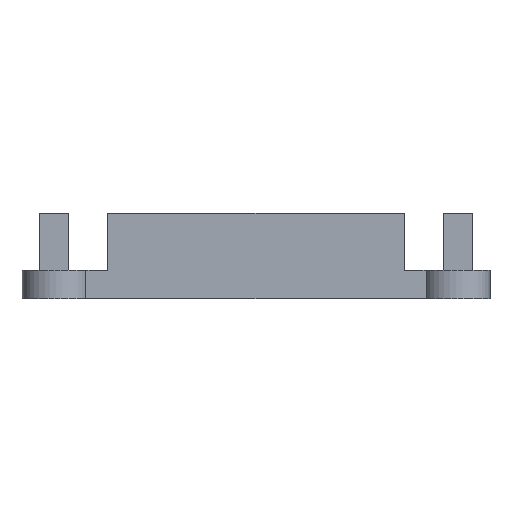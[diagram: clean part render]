
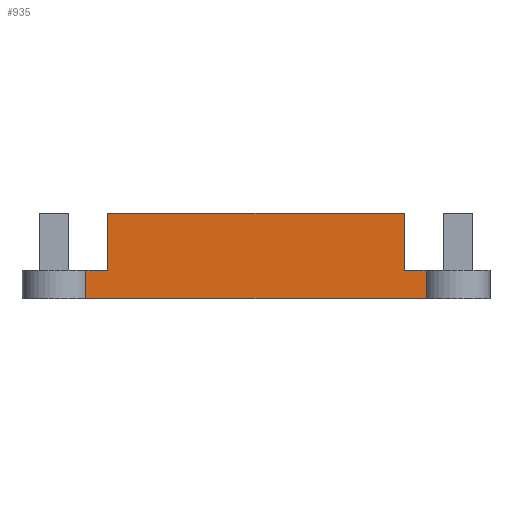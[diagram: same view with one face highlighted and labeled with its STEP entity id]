
A CAD part, left-side view. The second image highlights one B-rep face of the part: STEP entity #935.
In plain terms, the highlighted planar face has unit normal (-1, 0, 0).
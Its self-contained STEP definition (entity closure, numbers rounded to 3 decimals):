
#21 = EDGE_CURVE('',#22,#24,#26,.T.);
#22 = VERTEX_POINT('',#23);
#23 = CARTESIAN_POINT('',(3.,7.098,2.5));
#24 = VERTEX_POINT('',#25);
#25 = CARTESIAN_POINT('',(3.,9.,2.5));
#26 = SURFACE_CURVE('',#27,(#31,#43),.PCURVE_S1.);
#27 = LINE('',#28,#29);
#28 = CARTESIAN_POINT('',(3.,3.,2.5));
#29 = VECTOR('',#30,1.);
#30 = DIRECTION('',(0.,1.,0.));
#31 = PCURVE('',#32,#37);
#32 = PLANE('',#33);
#33 = AXIS2_PLACEMENT_3D('',#34,#35,#36);
#34 = CARTESIAN_POINT('',(3.,3.,2.5));
#35 = DIRECTION('',(0.,0.,1.));
#36 = DIRECTION('',(1.,0.,0.));
#37 = DEFINITIONAL_REPRESENTATION('',(#38),#42);
#38 = LINE('',#39,#40);
#39 = CARTESIAN_POINT('',(0.,0.));
#40 = VECTOR('',#41,1.);
#41 = DIRECTION('',(0.,1.));
#42 = ( GEOMETRIC_REPRESENTATION_CONTEXT(2) 
PARAMETRIC_REPRESENTATION_CONTEXT() REPRESENTATION_CONTEXT('2D SPACE',''
  ) );
#43 = PCURVE('',#44,#49);
#44 = PLANE('',#45);
#45 = AXIS2_PLACEMENT_3D('',#46,#47,#48);
#46 = CARTESIAN_POINT('',(3.,3.,0.));
#47 = DIRECTION('',(1.,0.,0.));
#48 = DIRECTION('',(0.,0.,1.));
#49 = DEFINITIONAL_REPRESENTATION('',(#50),#54);
#50 = LINE('',#51,#52);
#51 = CARTESIAN_POINT('',(2.5,0.));
#52 = VECTOR('',#53,1.);
#53 = DIRECTION('',(0.,-1.));
#54 = ( GEOMETRIC_REPRESENTATION_CONTEXT(2) 
PARAMETRIC_REPRESENTATION_CONTEXT() REPRESENTATION_CONTEXT('2D SPACE',''
  ) );
#73 = CYLINDRICAL_SURFACE('',#74,3.);
#74 = AXIS2_PLACEMENT_3D('',#75,#76,#77);
#75 = CARTESIAN_POINT('',(4.5,4.5,0.));
#76 = DIRECTION('',(-0.,-0.,-1.));
#77 = DIRECTION('',(1.,0.,0.));
#549 = VERTEX_POINT('',#550);
#550 = CARTESIAN_POINT('',(3.,36.902,2.5));
#565 = CYLINDRICAL_SURFACE('',#566,3.);
#566 = AXIS2_PLACEMENT_3D('',#567,#568,#569);
#567 = CARTESIAN_POINT('',(4.5,39.5,0.));
#568 = DIRECTION('',(-0.,-0.,-1.));
#569 = DIRECTION('',(1.,0.,0.));
#577 = EDGE_CURVE('',#578,#549,#580,.T.);
#578 = VERTEX_POINT('',#579);
#579 = CARTESIAN_POINT('',(3.,35.,2.5));
#580 = SURFACE_CURVE('',#581,(#585,#592),.PCURVE_S1.);
#581 = LINE('',#582,#583);
#582 = CARTESIAN_POINT('',(3.,3.,2.5));
#583 = VECTOR('',#584,1.);
#584 = DIRECTION('',(0.,1.,0.));
#585 = PCURVE('',#32,#586);
#586 = DEFINITIONAL_REPRESENTATION('',(#587),#591);
#587 = LINE('',#588,#589);
#588 = CARTESIAN_POINT('',(0.,0.));
#589 = VECTOR('',#590,1.);
#590 = DIRECTION('',(0.,1.));
#591 = ( GEOMETRIC_REPRESENTATION_CONTEXT(2) 
PARAMETRIC_REPRESENTATION_CONTEXT() REPRESENTATION_CONTEXT('2D SPACE',''
  ) );
#592 = PCURVE('',#44,#593);
#593 = DEFINITIONAL_REPRESENTATION('',(#594),#598);
#594 = LINE('',#595,#596);
#595 = CARTESIAN_POINT('',(2.5,0.));
#596 = VECTOR('',#597,1.);
#597 = DIRECTION('',(0.,-1.));
#598 = ( GEOMETRIC_REPRESENTATION_CONTEXT(2) 
PARAMETRIC_REPRESENTATION_CONTEXT() REPRESENTATION_CONTEXT('2D SPACE',''
  ) );
#616 = PLANE('',#617);
#617 = AXIS2_PLACEMENT_3D('',#618,#619,#620);
#618 = CARTESIAN_POINT('',(3.,35.,2.5));
#619 = DIRECTION('',(0.,1.,0.));
#620 = DIRECTION('',(0.,0.,1.));
#670 = PLANE('',#671);
#671 = AXIS2_PLACEMENT_3D('',#672,#673,#674);
#672 = CARTESIAN_POINT('',(3.,9.,2.5));
#673 = DIRECTION('',(0.,1.,0.));
#674 = DIRECTION('',(0.,0.,1.));
#935 = ADVANCED_FACE('',(#936),#44,.F.);
#936 = FACE_BOUND('',#937,.F.);
#937 = EDGE_LOOP('',(#938,#939,#962,#990,#1011,#1012,#1035,#1063));
#938 = ORIENTED_EDGE('',*,*,#21,.F.);
#939 = ORIENTED_EDGE('',*,*,#940,.T.);
#940 = EDGE_CURVE('',#22,#941,#943,.T.);
#941 = VERTEX_POINT('',#942);
#942 = CARTESIAN_POINT('',(3.,7.098,0.));
#943 = SURFACE_CURVE('',#944,(#948,#955),.PCURVE_S1.);
#944 = LINE('',#945,#946);
#945 = CARTESIAN_POINT('',(3.,7.098,0.));
#946 = VECTOR('',#947,1.);
#947 = DIRECTION('',(-0.,-0.,-1.));
#948 = PCURVE('',#44,#949);
#949 = DEFINITIONAL_REPRESENTATION('',(#950),#954);
#950 = LINE('',#951,#952);
#951 = CARTESIAN_POINT('',(0.,-4.098));
#952 = VECTOR('',#953,1.);
#953 = DIRECTION('',(-1.,0.));
#954 = ( GEOMETRIC_REPRESENTATION_CONTEXT(2) 
PARAMETRIC_REPRESENTATION_CONTEXT() REPRESENTATION_CONTEXT('2D SPACE',''
  ) );
#955 = PCURVE('',#73,#956);
#956 = DEFINITIONAL_REPRESENTATION('',(#957),#961);
#957 = LINE('',#958,#959);
#958 = CARTESIAN_POINT('',(-2.094,0.));
#959 = VECTOR('',#960,1.);
#960 = DIRECTION('',(-0.,1.));
#961 = ( GEOMETRIC_REPRESENTATION_CONTEXT(2) 
PARAMETRIC_REPRESENTATION_CONTEXT() REPRESENTATION_CONTEXT('2D SPACE',''
  ) );
#962 = ORIENTED_EDGE('',*,*,#963,.T.);
#963 = EDGE_CURVE('',#941,#964,#966,.T.);
#964 = VERTEX_POINT('',#965);
#965 = CARTESIAN_POINT('',(3.,36.902,0.));
#966 = SURFACE_CURVE('',#967,(#971,#978),.PCURVE_S1.);
#967 = LINE('',#968,#969);
#968 = CARTESIAN_POINT('',(3.,3.,0.));
#969 = VECTOR('',#970,1.);
#970 = DIRECTION('',(0.,1.,0.));
#971 = PCURVE('',#44,#972);
#972 = DEFINITIONAL_REPRESENTATION('',(#973),#977);
#973 = LINE('',#974,#975);
#974 = CARTESIAN_POINT('',(0.,0.));
#975 = VECTOR('',#976,1.);
#976 = DIRECTION('',(0.,-1.));
#977 = ( GEOMETRIC_REPRESENTATION_CONTEXT(2) 
PARAMETRIC_REPRESENTATION_CONTEXT() REPRESENTATION_CONTEXT('2D SPACE',''
  ) );
#978 = PCURVE('',#979,#984);
#979 = PLANE('',#980);
#980 = AXIS2_PLACEMENT_3D('',#981,#982,#983);
#981 = CARTESIAN_POINT('',(4.5,4.5,0.));
#982 = DIRECTION('',(0.,0.,1.));
#983 = DIRECTION('',(1.,0.,-0.));
#984 = DEFINITIONAL_REPRESENTATION('',(#985),#989);
#985 = LINE('',#986,#987);
#986 = CARTESIAN_POINT('',(-1.5,-1.5));
#987 = VECTOR('',#988,1.);
#988 = DIRECTION('',(0.,1.));
#989 = ( GEOMETRIC_REPRESENTATION_CONTEXT(2) 
PARAMETRIC_REPRESENTATION_CONTEXT() REPRESENTATION_CONTEXT('2D SPACE',''
  ) );
#990 = ORIENTED_EDGE('',*,*,#991,.F.);
#991 = EDGE_CURVE('',#549,#964,#992,.T.);
#992 = SURFACE_CURVE('',#993,(#997,#1004),.PCURVE_S1.);
#993 = LINE('',#994,#995);
#994 = CARTESIAN_POINT('',(3.,36.902,0.));
#995 = VECTOR('',#996,1.);
#996 = DIRECTION('',(-0.,-0.,-1.));
#997 = PCURVE('',#44,#998);
#998 = DEFINITIONAL_REPRESENTATION('',(#999),#1003);
#999 = LINE('',#1000,#1001);
#1000 = CARTESIAN_POINT('',(0.,-33.902));
#1001 = VECTOR('',#1002,1.);
#1002 = DIRECTION('',(-1.,0.));
#1003 = ( GEOMETRIC_REPRESENTATION_CONTEXT(2) 
PARAMETRIC_REPRESENTATION_CONTEXT() REPRESENTATION_CONTEXT('2D SPACE',''
  ) );
#1004 = PCURVE('',#565,#1005);
#1005 = DEFINITIONAL_REPRESENTATION('',(#1006),#1010);
#1006 = LINE('',#1007,#1008);
#1007 = CARTESIAN_POINT('',(-4.189,0.));
#1008 = VECTOR('',#1009,1.);
#1009 = DIRECTION('',(-0.,1.));
#1010 = ( GEOMETRIC_REPRESENTATION_CONTEXT(2) 
PARAMETRIC_REPRESENTATION_CONTEXT() REPRESENTATION_CONTEXT('2D SPACE',''
  ) );
#1011 = ORIENTED_EDGE('',*,*,#577,.F.);
#1012 = ORIENTED_EDGE('',*,*,#1013,.T.);
#1013 = EDGE_CURVE('',#578,#1014,#1016,.T.);
#1014 = VERTEX_POINT('',#1015);
#1015 = CARTESIAN_POINT('',(3.,35.,7.5));
#1016 = SURFACE_CURVE('',#1017,(#1021,#1028),.PCURVE_S1.);
#1017 = LINE('',#1018,#1019);
#1018 = CARTESIAN_POINT('',(3.,35.,2.5));
#1019 = VECTOR('',#1020,1.);
#1020 = DIRECTION('',(0.,0.,1.));
#1021 = PCURVE('',#44,#1022);
#1022 = DEFINITIONAL_REPRESENTATION('',(#1023),#1027);
#1023 = LINE('',#1024,#1025);
#1024 = CARTESIAN_POINT('',(2.5,-32.));
#1025 = VECTOR('',#1026,1.);
#1026 = DIRECTION('',(1.,0.));
#1027 = ( GEOMETRIC_REPRESENTATION_CONTEXT(2) 
PARAMETRIC_REPRESENTATION_CONTEXT() REPRESENTATION_CONTEXT('2D SPACE',''
  ) );
#1028 = PCURVE('',#616,#1029);
#1029 = DEFINITIONAL_REPRESENTATION('',(#1030),#1034);
#1030 = LINE('',#1031,#1032);
#1031 = CARTESIAN_POINT('',(0.,0.));
#1032 = VECTOR('',#1033,1.);
#1033 = DIRECTION('',(1.,0.));
#1034 = ( GEOMETRIC_REPRESENTATION_CONTEXT(2) 
PARAMETRIC_REPRESENTATION_CONTEXT() REPRESENTATION_CONTEXT('2D SPACE',''
  ) );
#1035 = ORIENTED_EDGE('',*,*,#1036,.F.);
#1036 = EDGE_CURVE('',#1037,#1014,#1039,.T.);
#1037 = VERTEX_POINT('',#1038);
#1038 = CARTESIAN_POINT('',(3.,9.,7.5));
#1039 = SURFACE_CURVE('',#1040,(#1044,#1051),.PCURVE_S1.);
#1040 = LINE('',#1041,#1042);
#1041 = CARTESIAN_POINT('',(3.,9.,7.5));
#1042 = VECTOR('',#1043,1.);
#1043 = DIRECTION('',(0.,1.,0.));
#1044 = PCURVE('',#44,#1045);
#1045 = DEFINITIONAL_REPRESENTATION('',(#1046),#1050);
#1046 = LINE('',#1047,#1048);
#1047 = CARTESIAN_POINT('',(7.5,-6.));
#1048 = VECTOR('',#1049,1.);
#1049 = DIRECTION('',(0.,-1.));
#1050 = ( GEOMETRIC_REPRESENTATION_CONTEXT(2) 
PARAMETRIC_REPRESENTATION_CONTEXT() REPRESENTATION_CONTEXT('2D SPACE',''
  ) );
#1051 = PCURVE('',#1052,#1057);
#1052 = PLANE('',#1053);
#1053 = AXIS2_PLACEMENT_3D('',#1054,#1055,#1056);
#1054 = CARTESIAN_POINT('',(3.,9.,7.5));
#1055 = DIRECTION('',(0.,0.,1.));
#1056 = DIRECTION('',(1.,0.,0.));
#1057 = DEFINITIONAL_REPRESENTATION('',(#1058),#1062);
#1058 = LINE('',#1059,#1060);
#1059 = CARTESIAN_POINT('',(0.,0.));
#1060 = VECTOR('',#1061,1.);
#1061 = DIRECTION('',(0.,1.));
#1062 = ( GEOMETRIC_REPRESENTATION_CONTEXT(2) 
PARAMETRIC_REPRESENTATION_CONTEXT() REPRESENTATION_CONTEXT('2D SPACE',''
  ) );
#1063 = ORIENTED_EDGE('',*,*,#1064,.F.);
#1064 = EDGE_CURVE('',#24,#1037,#1065,.T.);
#1065 = SURFACE_CURVE('',#1066,(#1070,#1077),.PCURVE_S1.);
#1066 = LINE('',#1067,#1068);
#1067 = CARTESIAN_POINT('',(3.,9.,2.5));
#1068 = VECTOR('',#1069,1.);
#1069 = DIRECTION('',(0.,0.,1.));
#1070 = PCURVE('',#44,#1071);
#1071 = DEFINITIONAL_REPRESENTATION('',(#1072),#1076);
#1072 = LINE('',#1073,#1074);
#1073 = CARTESIAN_POINT('',(2.5,-6.));
#1074 = VECTOR('',#1075,1.);
#1075 = DIRECTION('',(1.,0.));
#1076 = ( GEOMETRIC_REPRESENTATION_CONTEXT(2) 
PARAMETRIC_REPRESENTATION_CONTEXT() REPRESENTATION_CONTEXT('2D SPACE',''
  ) );
#1077 = PCURVE('',#670,#1078);
#1078 = DEFINITIONAL_REPRESENTATION('',(#1079),#1083);
#1079 = LINE('',#1080,#1081);
#1080 = CARTESIAN_POINT('',(0.,0.));
#1081 = VECTOR('',#1082,1.);
#1082 = DIRECTION('',(1.,0.));
#1083 = ( GEOMETRIC_REPRESENTATION_CONTEXT(2) 
PARAMETRIC_REPRESENTATION_CONTEXT() REPRESENTATION_CONTEXT('2D SPACE',''
  ) );
